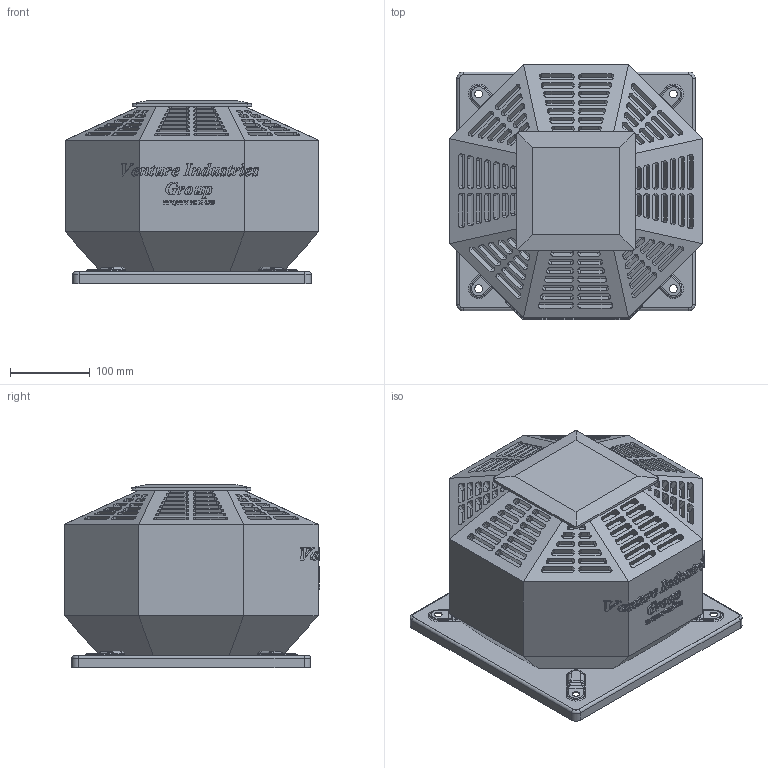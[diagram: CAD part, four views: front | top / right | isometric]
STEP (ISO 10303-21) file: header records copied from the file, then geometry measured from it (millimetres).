
FILE_DESCRIPTION(/* description */ (''),/* implementation_level */ '2;1');
FILE_NAME(/* name */ 'D:\Piotr - Dokumenty\Modele uproszczone\RFV\RFV X-125\ostateczna\RFV_RFV_EC_X_125_X v2.stp',/* time_stamp */ '2021-03-12T10:03:14+01:00',/* author */ ('Piotr.Nowotniak'),/* organization */ (''),/* preprocessor_version */ 'ST-DEVELOPER v18',/* originating_system */ 'Autodesk Inventor 2020',/* authorisation */ '');
FILE_SCHEMA (('AUTOMOTIVE_DESIGN { 1 0 10303 214 3 1 1 }'));
Products named in the file (1): RFV_RFV_EC_X_125_X v2
Bounding box: 319 x 321 x 230.2 mm (x, y, z)
Volume: 14853871.1 mm3; surface area: 541824.6 mm2
Topology: 1 solids, 1 shells, 1983 faces, 5289 edges, 3469 vertices
Faces by surface type: plane 962, cylinder 504, bspline 486, torus 22, cone 9
Full cylindrical faces by diameter (mm): 10 x4
Entity records: 71001 total; most frequent: CARTESIAN_POINT 22494, ORIENTED_EDGE 10578, DIRECTION 8382, EDGE_CURVE 5289, VERTEX_POINT 3469, LINE 3214, VECTOR 3214, AXIS2_PLACEMENT_3D 2584
